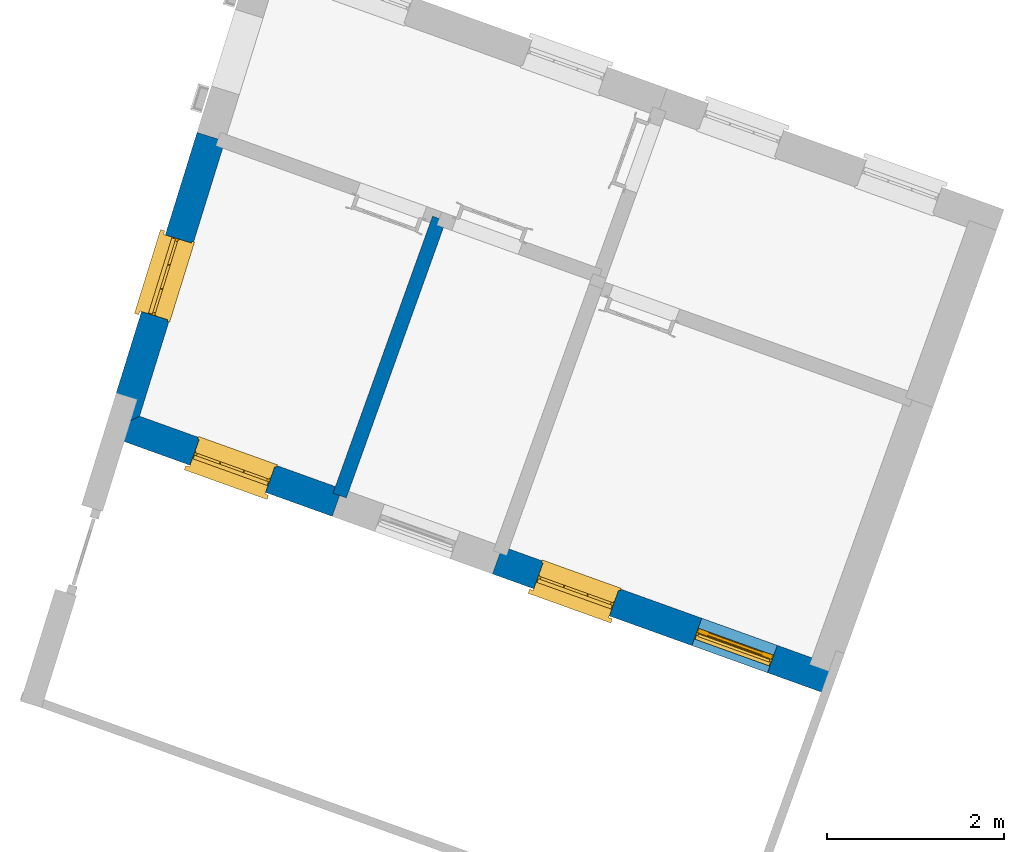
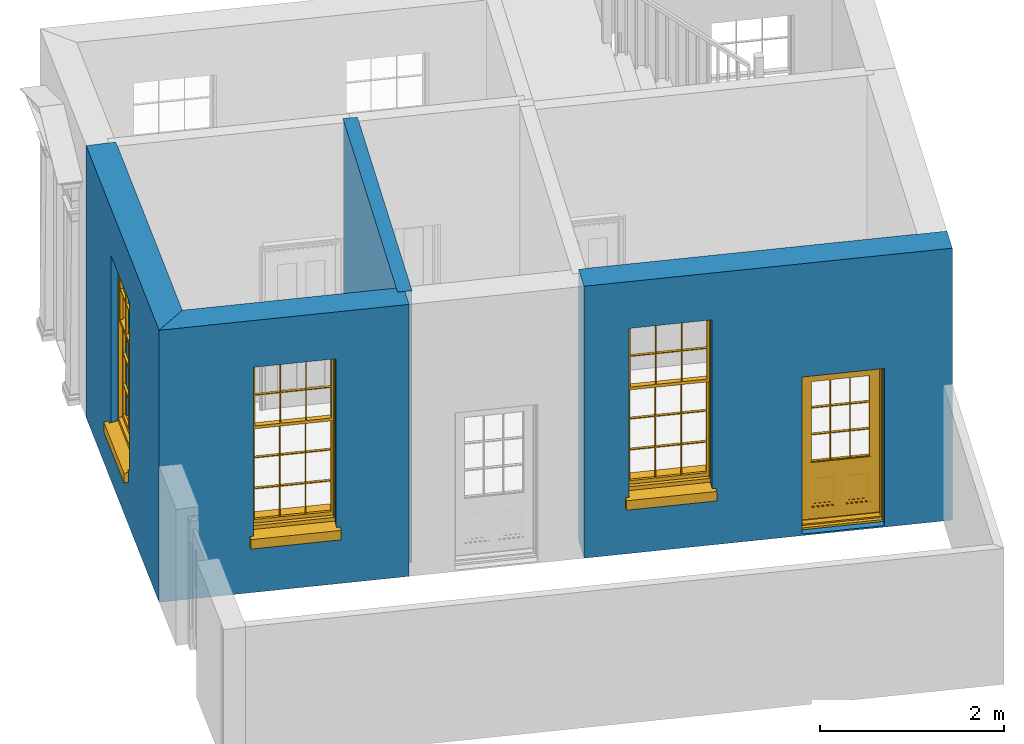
# One storey, part 2 of 6: 4 walls, 3 windows, 1 door, 4 openings.
"""IFC4 building model written with IfcOpenShell, lengths in metres."""

from ifc_helpers import new_model, si_unit, frame, origin, origin_with_axes, place, context, subcontext, project, spatial, polyline, outline, extrude, faceted_brep, source, transform, mapped, material, layer, layer_set, layer_usage, type_object, type_shapes, element, fill, save


model = new_model("IFC4")

# Units and contexts
model_context = context("Model", 3, world=origin_with_axes())
body_context = subcontext(model_context, "Body", "Model", "MODEL_VIEW")
ifc_project = project(units=[si_unit("PLANEANGLEUNIT", "RADIAN"), si_unit("MASSUNIT", "GRAM", prefix="KILO"), si_unit("FORCEUNIT", "NEWTON", prefix="KILO"), si_unit("LENGTHUNIT", "METRE"), si_unit("AREAUNIT", "SQUARE_METRE"), si_unit("VOLUMEUNIT", "CUBIC_METRE")], contexts=[model_context, model_context])

# Sites, building, storey
site_1_placement = place(None, origin_with_axes())
site_1 = spatial("IfcSite", under=ifc_project, at=site_1_placement, Name="Tamar")
site_2_placement = place(site_1_placement, origin_with_axes())
site_2 = spatial("IfcSite", under=site_1, at=site_2_placement, Name="Site plot-21", CompositionType="ELEMENT")
building_placement = place(None, origin_with_axes())
building = spatial("IfcBuilding", under=site_2, at=building_placement, Name="Building plot-21", CompositionType="ELEMENT")
storey_placement = place(None, frame((0.0, 0.0, 26.0), z_axis=(0.0, 0.0, 1.0), x_axis=(1.0, 0.0, 0.0)))
storey = spatial("IfcBuildingStorey", under=building, at=storey_placement, Name="plot-21 0", CompositionType="ELEMENT", Elevation=26.0)

# Wall, opening, window
ifc_material_1 = material(Name="Masonry")
ifc_layer_1 = layer(ifc_material_1, 0.33, ventilated=False)
ifc_layer_set_1 = layer_set([ifc_layer_1], Name="exterior_0.08_0.25")
ifc_layer_usage_1 = layer_usage(ifc_layer_set_1, "AXIS2", "POSITIVE", -0.25)
wall_type_1 = type_object("IfcWallType", Name="exterior_0.08_0.25", PredefinedType="SOLIDWALL", material=ifc_layer_set_1)
wall_1_placement = place(storey_placement, frame((253.821035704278, 285.869868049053, 0.0), z_axis=(0.0, 0.0, 1.0), x_axis=(-0.296355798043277, -0.955077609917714, 0.0)))
wall_1 = element("IfcWall", 1, at=wall_1_placement, inside=storey, type_object=wall_type_1, material=ifc_layer_usage_1, Name="exterior", context=body_context, shape_type="SweptSolid", body=[
    extrude(outline(polyline([(3.21728901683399e-14, 0.0799999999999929), (-7.43696345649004e-14, -0.250000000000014), (3.57885981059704, -0.249999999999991), (3.26309812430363, 0.0800000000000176), (3.21728901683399e-14, 0.0799999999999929)])), origin_with_axes(), (0.0, 0.0, 1.0), 3.6),
])
opening_1_placement = place(wall_1_placement, frame((1.21482320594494, 0.0, 0.75)))
opening_1 = element("IfcOpeningElement", 2, at=opening_1_placement, cuts=wall_1, Name="My Opening", ObjectType="Opening", context=body_context, shape_type="SweptSolid", body=[
    extrude(outline(polyline([(0.0, -0.269999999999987), (0.909999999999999, -0.269999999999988), (0.910000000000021, 1.10000000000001), (2.33146835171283e-14, 1.10000000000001), (0.0, -0.269999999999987)])), origin_with_axes(), (0.0, 0.0, 1.0), 2.23),
])
window_type = type_object("IfcWindowType", Name="sash_big_taller", PartitioningType="DOUBLE_PANEL_HORIZONTAL", PredefinedType="NOTDEFINED")
shared_shape_1 = source(origin(), body_context, "Body", "Brep", [
    faceted_brep([(0.033125, 0.145, 1.385209), (0.01, 0.145, 1.385209), (0.033125, 0.145, 1.786042), (0.876875, 0.145, 1.385209), (0.876875, 0.145, 1.786042), (0.9, 0.145, 1.385209), (0.876875, 0.145, 1.796042), (0.876875, 0.145, 2.196875), (0.9, 0.145, 2.22), (0.033125, 0.145, 2.196875), (0.033125, 0.145, 1.796042), (0.01, 0.145, 2.22), (0.876875, 0.115, 1.786042), (0.876875, 0.115, 1.385209), (0.9, 0.115, 1.347084), (0.033125, 0.115, 2.196875), (0.01, 0.115, 2.22), (0.033125, 0.115, 1.796042), (0.01, 0.115, 1.347084), (0.033125, 0.115, 1.385209), (0.033125, 0.115, 1.786042), (0.876875, 0.115, 2.196875), (0.876875, 0.115, 1.796042), (0.9, 0.115, 2.22), (0.033125, 0.145, 1.347084), (0.01, 0.145, 1.347084), (0.033125, 0.145, 0.94625), (0.876875, 0.145, 1.347084), (0.876875, 0.145, 0.94625), (0.9, 0.145, 1.347084), (0.876875, 0.145, 0.52625), (0.876875, 0.145, 0.125417), (0.9, 0.145, 0.077167), (0.033125, 0.145, 0.125417), (0.033125, 0.145, 0.52625), (0.01, 0.145, 0.077167), (-0.0425, 0.0, 0.01), (-0.0425, -0.05, 0.001667), (0.0, 0.0, 0.01), (0.9525, 0.0, 0.01), (0.91, 0.0, 0.01), (0.9525, -0.05, 0.001667), (-0.02, 0.33, 0.077167), (0.0, 0.33, 0.077167), (-0.02, 0.36, 0.077167), (0.0, 0.19, 0.077167), (0.01, 0.19, 0.077167), (0.91, 0.19, 0.077167), (0.91, 0.33, 0.077167), (0.9, 0.19, 0.077167), (0.93, 0.33, 0.077167), (0.93, 0.36, 0.077167), (0.01, 0.175, 1.385209), (0.9, 0.175, 1.385209), (0.876875, 0.175, 0.125417), (0.876875, 0.175, 0.52625), (0.9, 0.175, 0.077167), (0.876875, 0.175, 0.94625), (0.876875, 0.175, 1.347084), (0.033125, 0.175, 0.125417), (0.01, 0.175, 0.077167), (0.033125, 0.175, 0.52625), (0.033125, 0.175, 1.347084), (0.033125, 0.175, 0.94625), (-0.02, 0.33, 0.052167), (-0.02, 0.36, 0.052167), (0.93, 0.36, 0.052167), (0.93, 0.33, 0.052167), (0.91, 0.33, 0.052167), (0.0, 0.33, 0.052167), (0.91, 0.1, 0.026667), (0.0, 0.1, 0.026667), (-0.0425, -0.05, -0.123333), (0.9525, -0.05, -0.123333), (-0.0425, 0.0, -0.123333), (0.9525, 0.0, -0.123333), (0.01, 0.19, 2.22), (0.9, 0.19, 2.22), (0.0, 0.19, 2.23), (0.91, 0.19, 2.23), (0.01, 0.1, 0.077167), (0.9, 0.1, 0.077167), (0.592292, 0.145, 0.125417), (0.592292, 0.175, 0.125417), (0.317708, 0.175, 0.125417), (0.317708, 0.145, 0.125417), (0.592292, 0.145, 0.53625), (0.317708, 0.145, 0.53625), (0.317708, 0.145, 0.52625), (0.592292, 0.145, 0.52625), (0.592292, 0.175, 0.53625), (0.317708, 0.175, 0.53625), (0.592292, 0.115, 1.796042), (0.592292, 0.145, 1.796042), (0.317708, 0.145, 1.796042), (0.317708, 0.115, 1.796042), (0.317708, 0.115, 1.786042), (0.592292, 0.115, 1.786042), (0.317708, 0.145, 1.786042), (0.592292, 0.145, 1.786042), (0.602292, 0.115, 1.786042), (0.592292, 0.115, 1.385209), (0.602292, 0.115, 1.385209), (0.602292, 0.145, 1.385209), (0.592292, 0.145, 1.385209), (0.602292, 0.145, 1.786042), (0.876875, 0.145, 0.53625), (0.876875, 0.175, 0.53625), (0.602292, 0.175, 0.53625), (0.602292, 0.145, 0.53625), (0.317708, 0.175, 0.52625), (0.307708, 0.175, 0.125417), (0.307708, 0.175, 0.52625), (0.602292, 0.175, 0.52625), (0.602292, 0.175, 0.125417), (0.592292, 0.175, 0.52625), (0.307708, 0.175, 0.53625), (0.033125, 0.175, 0.53625), (0.317708, 0.175, 1.347084), (0.317708, 0.175, 0.94625), (0.307708, 0.175, 0.94625), (0.307708, 0.175, 1.347084), (0.602292, 0.175, 1.347084), (0.602292, 0.175, 0.94625), (0.592292, 0.175, 0.94625), (0.592292, 0.175, 1.347084), (0.307708, 0.145, 0.52625), (0.307708, 0.145, 0.125417), (0.307708, 0.145, 0.53625), (0.033125, 0.145, 0.53625), (0.307708, 0.145, 1.347084), (0.307708, 0.145, 0.94625), (0.592292, 0.145, 1.347084), (0.592292, 0.145, 0.94625), (0.317708, 0.145, 0.94625), (0.317708, 0.145, 1.347084), (0.602292, 0.145, 0.94625), (0.602292, 0.145, 1.347084), (0.602292, 0.145, 0.52625), (0.602292, 0.145, 0.125417), (0.307708, 0.115, 1.796042), (0.307708, 0.115, 1.786042), (0.307708, 0.115, 1.385209), (0.317708, 0.115, 1.385209), (0.317708, 0.115, 2.196875), (0.307708, 0.115, 2.196875), (0.602292, 0.115, 2.196875), (0.592292, 0.115, 2.196875), (0.602292, 0.115, 1.796042), (0.602292, 0.145, 1.796042), (0.307708, 0.145, 1.796042), (0.307708, 0.145, 2.196875), (0.317708, 0.145, 2.196875), (0.592292, 0.145, 2.196875), (0.602292, 0.145, 2.196875), (0.307708, 0.145, 1.786042), (0.317708, 0.145, 1.385209), (0.307708, 0.145, 1.385209), (0.876875, 0.175, 0.93625), (0.033125, 0.175, 0.93625), (0.033125, 0.145, 0.93625), (0.876875, 0.145, 0.93625), (0.91, 0.1, 2.23), (0.9, 0.1, 2.22), (0.01, 0.1, 2.22), (0.0, 0.1, 2.23), (0.91, 0.0, 0.0), (0.0, 0.0, 0.0), (0.91, 0.33, 0.0), (0.0, 0.33, 0.0), (0.317708, 0.145, 0.93625), (0.592292, 0.145, 0.93625), (0.317708, 0.175, 0.93625), (0.307708, 0.175, 0.93625), (0.602292, 0.175, 0.93625), (0.592292, 0.175, 0.93625), (0.307708, 0.145, 0.93625), (0.602292, 0.145, 0.93625)], [[[0, 1, 2]], [[3, 4, 5]], [[6, 7, 8]], [[9, 10, 11]], [[12, 13, 14]], [[15, 16, 17]], [[18, 19, 20]], [[21, 22, 23]], [[24, 25, 26]], [[27, 28, 29]], [[30, 31, 32]], [[33, 34, 35]], [[14, 27, 29]], [[25, 24, 18]], [[36, 37, 38]], [[39, 40, 41]], [[42, 43, 44]], [[45, 46, 43]], [[47, 48, 49]], [[50, 51, 48]], [[1, 0, 52]], [[5, 53, 3]], [[54, 55, 56]], [[57, 58, 53]], [[59, 60, 61]], [[62, 63, 52]], [[48, 43, 46, 49]], [[51, 44, 43, 48]], [[64, 42, 44, 65]], [[65, 44, 51, 66]], [[66, 51, 50, 67]], [[65, 66, 68, 69]], [[60, 56, 49, 46]], [[70, 71, 38, 40]], [[37, 41, 40, 38]], [[37, 72, 73, 41]], [[74, 75, 73, 72]], [[8, 11, 76, 77]], [[76, 78, 79, 77]], [[32, 35, 80, 81]], [[81, 80, 71, 70]], [[82, 83, 84, 85]], [[86, 87, 88, 89]], [[86, 90, 91, 87]], [[92, 93, 94, 95]], [[92, 95, 96, 97]], [[96, 98, 99, 97]], [[100, 97, 101, 102]], [[103, 104, 99, 105]], [[97, 99, 104, 101]], [[102, 103, 105, 100]], [[106, 107, 108, 109]], [[110, 84, 111, 112]], [[113, 114, 83, 115]], [[116, 112, 61, 117]], [[90, 115, 110, 91]], [[118, 119, 120, 121]], [[122, 123, 124, 125]], [[113, 108, 107, 55]], [[126, 112, 111, 127]], [[34, 61, 112, 126]], [[89, 115, 83, 82]], [[88, 110, 115, 89]], [[85, 84, 110, 88]], [[128, 116, 117, 129]], [[130, 121, 120, 131]], [[132, 125, 124, 133]], [[134, 119, 118, 135]], [[136, 123, 122, 137]], [[138, 113, 55, 30]], [[139, 114, 113, 138]], [[138, 30, 106, 109]], [[88, 126, 127, 85]], [[138, 89, 82, 139]], [[137, 132, 133, 136]], [[128, 129, 34, 126]], [[135, 130, 131, 134]], [[140, 17, 20, 141]], [[96, 141, 142, 143]], [[144, 145, 140, 95]], [[146, 147, 92, 148]], [[100, 12, 22, 148]], [[149, 6, 4, 105]], [[94, 150, 151, 152]], [[149, 93, 153, 154]], [[99, 98, 94, 93]], [[155, 2, 10, 150]], [[156, 157, 155, 98]], [[141, 155, 157, 142]], [[20, 2, 155, 141]], [[143, 156, 98, 96]], [[140, 150, 10, 17]], [[145, 151, 150, 140]], [[147, 153, 93, 92]], [[95, 94, 152, 144]], [[22, 6, 149, 148]], [[148, 149, 154, 146]], [[100, 105, 4, 12]], [[109, 86, 89, 138]], [[108, 113, 115, 90]], [[91, 110, 112, 116]], [[87, 128, 126, 88]], [[97, 100, 148, 92]], [[141, 96, 95, 140]], [[98, 155, 150, 94]], [[105, 99, 93, 149]], [[143, 101, 104, 156]], [[135, 118, 125, 132]], [[144, 152, 153, 147]], [[127, 111, 59, 33]], [[15, 9, 151, 145]], [[146, 154, 7, 21]], [[31, 54, 114, 139]], [[36, 74, 72, 37]], [[39, 41, 73, 75]], [[18, 14, 101, 143]], [[23, 16, 144, 147]], [[83, 56, 60, 84]], [[52, 53, 125, 118]], [[53, 52, 156, 104]], [[11, 8, 153, 152]], [[14, 18, 135, 132]], [[2, 1, 11, 10]], [[8, 5, 4, 6]], [[57, 53, 56, 158]], [[60, 52, 63, 159]], [[26, 25, 35, 160]], [[32, 29, 28, 161]], [[14, 23, 22, 12]], [[18, 20, 17, 16]], [[19, 0, 2, 20]], [[17, 10, 9, 15]], [[12, 4, 3, 13]], [[21, 7, 6, 22]], [[27, 58, 57, 28]], [[30, 55, 54, 31]], [[33, 59, 61, 34]], [[26, 63, 62, 24]], [[5, 8, 77, 53]], [[76, 11, 1, 52]], [[46, 45, 78, 76]], [[49, 77, 79, 47]], [[70, 162, 163, 81]], [[71, 80, 164, 165]], [[19, 142, 157, 0]], [[102, 13, 3, 103]], [[121, 130, 24, 62]], [[29, 32, 81, 14]], [[80, 35, 25, 18]], [[60, 46, 76, 52]], [[77, 49, 56, 53]], [[23, 14, 81, 163]], [[16, 164, 80, 18]], [[35, 85, 127]], [[127, 33, 35]], [[139, 82, 32]], [[32, 31, 139]], [[32, 82, 85, 35]], [[102, 101, 14]], [[14, 13, 102]], [[18, 143, 142]], [[142, 19, 18]], [[146, 21, 23]], [[23, 147, 146]], [[16, 15, 145]], [[145, 144, 16]], [[11, 152, 151]], [[151, 9, 11]], [[154, 153, 8]], [[8, 7, 154]], [[23, 163, 164, 16]], [[162, 165, 164, 163]], [[52, 118, 121]], [[121, 62, 52]], [[125, 53, 122]], [[58, 122, 53]], [[27, 137, 122, 58]], [[56, 83, 114]], [[114, 54, 56]], [[111, 84, 60]], [[60, 59, 111]], [[137, 27, 14]], [[14, 132, 137]], [[130, 135, 18]], [[18, 24, 130]], [[157, 156, 52]], [[52, 0, 157]], [[103, 3, 53]], [[53, 104, 103]], [[79, 78, 165, 162]], [[78, 45, 71, 165]], [[162, 70, 47, 79]], [[166, 75, 74, 167]], [[68, 66, 67]], [[48, 68, 67, 50]], [[69, 64, 65]], [[42, 64, 69, 43]], [[69, 68, 168, 169]], [[70, 68, 48, 47]], [[166, 168, 68, 70]], [[43, 69, 71, 45]], [[69, 169, 167, 71]], [[168, 166, 167, 169]], [[38, 167, 74, 36]], [[71, 167, 38]], [[39, 75, 166, 40]], [[40, 166, 70]], [[133, 134, 170, 171]], [[133, 124, 119, 134]], [[28, 57, 123, 136]], [[172, 91, 116, 173]], [[174, 108, 90, 175]], [[120, 173, 159, 63]], [[124, 175, 172, 119]], [[174, 123, 57, 158]], [[176, 173, 116, 128]], [[160, 159, 173, 176]], [[171, 175, 90, 86]], [[170, 172, 175, 171]], [[87, 91, 172, 170]], [[131, 120, 63, 26]], [[177, 174, 158, 161]], [[109, 108, 174, 177]], [[177, 161, 28, 136]], [[170, 176, 128, 87]], [[177, 171, 86, 109]], [[131, 26, 160, 176]], [[136, 133, 171, 177]], [[123, 174, 175, 124]], [[119, 172, 173, 120]], [[134, 131, 176, 170]], [[129, 117, 159, 160]], [[161, 158, 107, 106]], [[35, 34, 129]], [[35, 129, 160]], [[32, 106, 30]], [[32, 161, 106]], [[56, 55, 107]], [[56, 107, 158]], [[60, 117, 61]], [[60, 159, 117]]]),
])
type_shapes(window_type, [shared_shape_1])
window_1_placement = place(storey_placement, frame((253.203144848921, 284.789633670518, 0.75), z_axis=(0.0, 0.0, 1.0), x_axis=(-0.269683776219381, -0.869120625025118, 0.0)))
window_1 = element("IfcWindow", 3, at=window_1_placement, inside=storey, type_object=window_type, Name="toilet street window", OverallHeight=2.23, OverallWidth=0.91, context=body_context, shape_type="MappedRepresentation", body=[
    mapped(shared_shape_1, transform((0.0, 0.0, 0.0), scale=1.0)),
])
fill(opening_1, window_1)

wall_2_placement = place(storey_placement, frame((252.8313121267, 282.680246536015, 0.0), z_axis=(0.0, 0.0, 1.0), x_axis=(0.941087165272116, -0.338164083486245, 0.0)))
wall_2 = element("IfcWall", 4, at=wall_2_placement, inside=storey, type_object=wall_type_1, material=ifc_layer_usage_1, Name="exterior", context=body_context, shape_type="SweptSolid", body=[
    extrude(outline(polyline([(0.0765482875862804, 0.0799999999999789), (-0.239213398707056, -0.250000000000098), (2.51465547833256, -0.250000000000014), (2.51465547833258, 0.079999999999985), (0.0765482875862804, 0.0799999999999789)])), origin_with_axes(), (0.0, 0.0, 1.0), 3.6),
])
opening_2_placement = place(wall_2_placement, frame((0.80232773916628, 0.0, 0.75)))
opening_2 = element("IfcOpeningElement", 5, at=opening_2_placement, cuts=wall_2, Name="My Opening", ObjectType="Opening", context=body_context, shape_type="SweptSolid", body=[
    extrude(outline(polyline([(0.0, -0.270000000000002), (0.909999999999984, -0.26999999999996), (0.91, 1.10000000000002), (1.62092561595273e-14, 1.09999999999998), (0.0, -0.270000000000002)])), origin_with_axes(), (0.0, 0.0, 1.0), 2.23),
])
window_2_placement = place(storey_placement, frame((253.49506816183, 282.154834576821, 0.75), z_axis=(0.0, 0.0, 1.0), x_axis=(0.856389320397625, -0.307729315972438, 0.0)))
window_2 = element("IfcWindow", 6, at=window_2_placement, inside=storey, type_object=window_type, Name="toilet outside window", OverallHeight=2.23, OverallWidth=0.91, context=body_context, shape_type="MappedRepresentation", body=[
    mapped(shared_shape_1, transform((0.0, 0.0, 0.0), scale=1.0)),
])
fill(opening_2, window_2)

# Wall, openings, window, door
wall_3_placement = place(storey_placement, frame((257.014123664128, 281.177222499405, 0.0), z_axis=(0.0, 0.0, 1.0), x_axis=(0.94108716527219, -0.33816408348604, 0.0)))
wall_3 = element("IfcWall", 7, at=wall_3_placement, inside=storey, type_object=wall_type_1, material=ifc_layer_usage_1, Name="exterior", context=body_context, shape_type="SweptSolid", body=[
    extrude(outline(polyline([(-1.44724096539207e-14, 0.0800000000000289), (7.61153752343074e-14, -0.249999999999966), (4.05822589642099, -0.249999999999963), (4.05822589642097, 0.0799999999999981), (-1.44724096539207e-14, 0.0800000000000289)])), origin_with_axes(), (0.0, 0.0, 1.0), 3.6),
])
opening_3_placement = place(wall_3_placement, frame((0.497056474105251, 0.0, 0.75)))
opening_3 = element("IfcOpeningElement", 8, at=opening_3_placement, cuts=wall_3, Name="My Opening", ObjectType="Opening", context=body_context, shape_type="SweptSolid", body=[
    extrude(outline(polyline([(0.0, -0.270000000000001), (0.909999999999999, -0.27000000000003), (0.910000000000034, 1.09999999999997), (3.55826479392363e-14, 1.1), (0.0, -0.270000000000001)])), origin_with_axes(), (0.0, 0.0, 1.0), 2.23),
])
opening_4_placement = place(wall_3_placement, frame((2.40116942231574, 0.0, 0.0199999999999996)))
opening_4 = element("IfcOpeningElement", 9, at=opening_4_placement, cuts=wall_3, Name="My Opening", ObjectType="Opening", context=body_context, shape_type="SweptSolid", body=[
    extrude(outline(polyline([(0.0, -0.270000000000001), (0.909999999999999, -0.27000000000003), (0.910000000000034, 1.09999999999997), (3.59712259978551e-14, 1.1), (0.0, -0.270000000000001)])), origin_with_axes(), (0.0, 0.0, 1.0), 2.08),
])
window_3_placement = place(storey_placement, frame((257.390592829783, 280.755042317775, 0.75), z_axis=(0.0, 0.0, 1.0), x_axis=(0.856389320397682, -0.307729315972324, 0.0)))
window_3 = element("IfcWindow", 10, at=window_3_placement, inside=storey, type_object=window_type, Name="bedroom outside window", OverallHeight=2.23, OverallWidth=0.91, context=body_context, shape_type="MappedRepresentation", body=[
    mapped(shared_shape_1, transform((0.0, 0.0, 0.0), scale=1.0)),
])
fill(opening_3, window_3)
door_type = type_object("IfcDoorType", Name="door_panelled", OperationType="SINGLE_SWING_LEFT", PredefinedType="NOTDEFINED")
shared_shape_2 = source(origin(), body_context, "Body", "Brep", [
    faceted_brep([(0.545, 0.195, 0.265), (0.745, 0.195, 0.265), (0.745, 0.2, 0.265), (0.545, 0.2, 0.265), (0.745, 0.2, 0.58), (0.545, 0.2, 0.58), (0.545, 0.195, 0.58), (0.515, 0.19, 0.235), (0.775, 0.19, 0.235), (0.745, 0.195, 0.58), (0.515, 0.19, 0.61), (0.515, 0.185, 0.235), (0.775, 0.185, 0.235), (0.775, 0.19, 0.61), (0.515, 0.185, 0.61), (0.785, 0.185, 0.225), (0.505, 0.185, 0.225), (0.775, 0.185, 0.61), (0.505, 0.185, 0.62), (0.785, 0.185, 0.62), (0.505, 0.18, 0.225), (0.785, 0.18, 0.225), (0.505, 0.18, 0.62), (0.785, 0.18, 0.62), (0.883, 0.18, 0.075), (0.898, 0.18, 0.075), (0.405, 0.18, 0.62), (0.405, 0.18, 0.225), (0.027, 0.18, 0.075), (0.785, 0.18, 0.82), (0.125, 0.18, 0.82), (0.405, 0.185, 0.62), (0.405, 0.185, 0.225), (0.898, 0.18, 2.068), (0.027, 0.17, 0.075), (0.883, 0.17, 0.075), (0.125, 0.18, 0.225), (0.012, 0.18, 0.075), (0.785, 0.19, 0.82), (0.125, 0.19, 0.82), (0.125, 0.18, 0.62), (0.125, 0.185, 0.62), (0.395, 0.185, 0.61), (0.395, 0.185, 0.235), (0.125, 0.185, 0.225), (0.785, 0.18, 1.895), (0.027, 0.14, 0.045), (0.883, 0.14, 0.045), (0.558333, 0.19, 0.83), (0.351667, 0.19, 0.83), (0.125, 0.18, 1.895), (0.125, 0.19, 1.895), (0.785, 0.19, 1.895), (0.012, 0.18, 2.068), (0.135, 0.185, 0.61), (0.395, 0.19, 0.61), (0.395, 0.19, 0.235), (0.135, 0.185, 0.235), (0.027, 0.14, 0.027), (0.883, 0.14, 0.027), (0.568333, 0.19, 0.83), (0.558333, 0.22, 0.83), (0.351667, 0.22, 0.83), (0.341667, 0.19, 0.83), (0.135, 0.19, 1.185), (0.135, 0.19, 1.53), (0.775, 0.19, 1.53), (0.775, 0.19, 1.185), (0.135, 0.19, 0.61), (0.365, 0.195, 0.58), (0.365, 0.195, 0.265), (0.135, 0.19, 0.235), (0.568333, 0.19, 1.175), (0.558333, 0.19, 1.175), (0.775, 0.19, 0.83), (0.558333, 0.22, 1.175), (0.785, 0.22, 0.82), (0.125, 0.22, 0.82), (0.351667, 0.22, 1.175), (0.351667, 0.19, 1.175), (0.341667, 0.19, 1.175), (0.135, 0.19, 0.83), (0.135, 0.19, 1.175), (0.135, 0.22, 1.185), (0.135, 0.22, 1.53), (0.135, 0.19, 1.54), (0.351667, 0.19, 1.885), (0.558333, 0.19, 1.885), (0.775, 0.22, 1.53), (0.775, 0.22, 1.185), (0.775, 0.19, 1.175), (0.775, 0.19, 1.54), (0.165, 0.195, 0.58), (0.365, 0.2, 0.58), (0.365, 0.2, 0.265), (0.165, 0.195, 0.265), (0.568333, 0.22, 0.83), (0.568333, 0.22, 1.175), (0.568333, 0.19, 1.185), (0.558333, 0.19, 1.185), (0.775, 0.22, 0.83), (0.785, 0.23, 0.82), (0.125, 0.23, 0.82), (0.341667, 0.22, 0.83), (0.341667, 0.22, 1.175), (0.351667, 0.19, 1.185), (0.341667, 0.19, 1.185), (0.135, 0.22, 0.83), (0.341667, 0.22, 1.185), (0.125, 0.22, 1.895), (0.341667, 0.22, 1.53), (0.341667, 0.19, 1.53), (0.135, 0.19, 1.885), (0.341667, 0.19, 1.54), (0.341667, 0.19, 1.885), (0.558333, 0.22, 1.885), (0.351667, 0.22, 1.885), (0.568333, 0.19, 1.885), (0.785, 0.22, 1.895), (0.568333, 0.22, 1.185), (0.568333, 0.19, 1.53), (0.568333, 0.22, 1.53), (0.568333, 0.19, 1.54), (0.775, 0.19, 1.885), (0.165, 0.2, 0.58), (0.165, 0.2, 0.265), (0.775, 0.22, 1.175), (0.558333, 0.19, 1.53), (0.351667, 0.22, 1.185), (0.558333, 0.22, 1.185), (0.505, 0.23, 0.62), (0.405, 0.23, 0.62), (0.125, 0.23, 1.895), (0.785, 0.23, 1.895), (0.351667, 0.19, 1.53), (0.135, 0.22, 1.175), (0.135, 0.22, 1.54), (0.341667, 0.22, 1.54), (0.135, 0.22, 1.885), (0.351667, 0.19, 1.54), (0.558333, 0.22, 1.54), (0.558333, 0.19, 1.54), (0.351667, 0.22, 1.54), (0.775, 0.22, 1.54), (0.568333, 0.22, 1.54), (0.775, 0.22, 1.885), (0.558333, 0.22, 1.53), (0.405, 0.23, 0.225), (0.505, 0.23, 0.225), (0.125, 0.23, 0.62), (0.785, 0.23, 0.62), (0.012, 0.23, 2.068), (0.898, 0.23, 2.068), (0.351667, 0.22, 1.53), (0.341667, 0.22, 1.885), (0.568333, 0.22, 1.885), (0.405, 0.225, 0.225), (0.405, 0.225, 0.62), (0.505, 0.225, 0.62), (0.505, 0.225, 0.225), (0.898, 0.23, 0.027), (0.012, 0.23, 0.027), (0.125, 0.225, 0.62), (0.785, 0.225, 0.62), (0.395, 0.225, 0.235), (0.395, 0.225, 0.61), (0.125, 0.23, 0.225), (0.125, 0.225, 0.225), (0.515, 0.225, 0.61), (0.515, 0.225, 0.235), (0.785, 0.23, 0.225), (0.785, 0.225, 0.225), (0.135, 0.225, 0.61), (0.775, 0.225, 0.61), (0.135, 0.225, 0.235), (0.395, 0.22, 0.235), (0.395, 0.22, 0.61), (0.515, 0.22, 0.61), (0.515, 0.22, 0.235), (0.775, 0.225, 0.235), (0.135, 0.22, 0.61), (0.775, 0.22, 0.61), (0.135, 0.22, 0.235), (0.365, 0.215, 0.265), (0.365, 0.215, 0.58), (0.545, 0.215, 0.58), (0.545, 0.215, 0.265), (0.775, 0.22, 0.235), (0.165, 0.215, 0.58), (0.745, 0.215, 0.58), (0.165, 0.215, 0.265), (0.365, 0.21, 0.58), (0.365, 0.21, 0.265), (0.545, 0.21, 0.58), (0.545, 0.21, 0.265), (0.745, 0.215, 0.265), (0.165, 0.21, 0.58), (0.745, 0.21, 0.58), (0.165, 0.21, 0.265), (0.745, 0.21, 0.265), (0.885, 0.178, 0.025), (0.025, 0.178, 0.025), (0.025, 0.15, 0.025), (0.885, 0.15, 0.025), (0.9, 0.23, 0.025), (0.01, 0.23, 0.025), (0.9, 0.178, 0.025), (0.91, 0.23, 0.0), (0.0, 0.23, 0.0), (0.01, 0.178, 0.025), (0.9, 0.178, 2.07), (0.9, 0.23, 2.07), (0.885, 0.178, 2.055), (0.91, 0.23, 2.08), (0.01, 0.23, 2.07), (0.0, 0.23, 2.08), (0.01, 0.178, 2.07), (0.025, 0.178, 2.055), (0.0, 0.1, 2.08), (0.91, 0.1, 2.08), (0.01, 0.1, 2.07), (0.9, 0.1, 2.07), (0.01, 0.15, 2.07), (0.9, 0.15, 2.07), (0.0, 0.1, 0.0), (0.91, 0.1, 0.0), (0.01, 0.1, 0.025), (0.9, 0.1, 0.025), (0.01, 0.15, 0.025), (0.025, 0.15, 2.055), (0.9, 0.15, 0.025), (0.885, 0.15, 2.055), (0.898, 0.18, 0.027), (0.012, 0.18, 0.027), (0.883, 0.18, 0.027), (0.027, 0.18, 0.027)], [[[0, 1, 2, 3]], [[2, 4, 5, 3]], [[0, 3, 5, 6]], [[1, 0, 7, 8]], [[9, 4, 2, 1]], [[9, 6, 5, 4]], [[0, 6, 10, 7]], [[8, 7, 11, 12]], [[8, 13, 9, 1]], [[13, 10, 6, 9]], [[7, 10, 14, 11]], [[15, 12, 11, 16]], [[12, 17, 13, 8]], [[17, 14, 10, 13]], [[18, 16, 11, 14]], [[15, 19, 17, 12]], [[15, 16, 20, 21]], [[14, 17, 19, 18]], [[16, 18, 22, 20]], [[21, 23, 19, 15]], [[24, 25, 21, 20]], [[23, 22, 18, 19]], [[20, 22, 26, 27]], [[23, 21, 25]], [[28, 24, 20, 27]], [[22, 23, 29]], [[29, 30, 26, 22]], [[27, 26, 31, 32]], [[23, 25, 33, 29]], [[34, 35, 24, 28]], [[28, 27, 36, 37]], [[38, 39, 30, 29]], [[26, 30, 40]], [[26, 40, 41, 31]], [[42, 43, 32, 31]], [[32, 44, 36, 27]], [[33, 45, 29]], [[46, 47, 35, 34]], [[36, 40, 37]], [[39, 38, 48, 49]], [[50, 30, 39, 51]], [[29, 45, 52, 38]], [[53, 37, 40, 30]], [[44, 41, 40, 36]], [[31, 41, 54, 42]], [[43, 42, 55, 56]], [[57, 44, 32, 43]], [[50, 45, 33, 53]], [[47, 46, 58, 59]], [[60, 48, 38]], [[49, 48, 61, 62]], [[49, 63, 39]], [[50, 53, 30]], [[51, 39, 64, 65]], [[45, 50, 51, 52]], [[66, 67, 38, 52]], [[57, 54, 41, 44]], [[42, 54, 68, 55]], [[56, 55, 69, 70]], [[56, 71, 57, 43]], [[60, 72, 73, 48]], [[60, 38, 74]], [[48, 73, 75, 61]], [[76, 77, 62, 61]], [[62, 78, 79, 49]], [[49, 79, 80, 63]], [[63, 81, 39]], [[82, 64, 39]], [[65, 64, 83, 84]], [[85, 51, 65]], [[52, 51, 86, 87]], [[88, 89, 67, 66]], [[90, 38, 67]], [[91, 66, 52]], [[71, 68, 54, 57]], [[55, 68, 92, 69]], [[69, 93, 94, 70]], [[70, 95, 71, 56]], [[96, 97, 72, 60]], [[73, 72, 98, 99]], [[74, 38, 90]], [[100, 96, 60, 74]], [[75, 73, 79, 78]], [[61, 75, 97, 96]], [[101, 102, 77, 76]], [[77, 103, 62]], [[96, 76, 61]], [[103, 104, 78, 62]], [[80, 79, 105, 106]], [[63, 80, 104, 103]], [[81, 63, 103, 107]], [[81, 82, 39]], [[106, 64, 82, 80]], [[106, 108, 83, 64]], [[84, 83, 77, 109]], [[110, 111, 65, 84]], [[112, 51, 85]], [[113, 85, 65, 111]], [[114, 86, 51]], [[115, 87, 86, 116]], [[117, 52, 87]], [[118, 76, 89, 88]], [[119, 98, 67, 89]], [[120, 121, 88, 66]], [[67, 98, 72, 90]], [[91, 122, 120, 66]], [[91, 52, 123]], [[95, 92, 68, 71]], [[69, 92, 124, 93]], [[94, 93, 124, 125]], [[94, 125, 95, 70]], [[72, 97, 126, 90]], [[127, 99, 98, 120]], [[99, 105, 79, 73]], [[74, 90, 126, 100]], [[96, 100, 76]], [[128, 129, 75, 78]], [[97, 75, 129, 119]], [[130, 131, 102, 101]], [[109, 77, 102, 132]], [[133, 101, 76, 118]], [[77, 107, 103]], [[78, 104, 108, 128]], [[111, 106, 105, 134]], [[104, 80, 82, 135]], [[107, 135, 82, 81]], [[110, 108, 106, 111]], [[104, 135, 83, 108]], [[83, 135, 77]], [[136, 84, 109]], [[110, 84, 136, 137]], [[114, 51, 112]], [[85, 136, 138, 112]], [[113, 137, 136, 85]], [[111, 134, 139, 113]], [[86, 114, 113, 139]], [[140, 141, 87, 115]], [[139, 142, 116, 86]], [[109, 118, 115, 116]], [[117, 123, 52]], [[117, 87, 141, 122]], [[126, 89, 76]], [[143, 118, 88]], [[120, 98, 119, 121]], [[119, 89, 126, 97]], [[144, 143, 88, 121]], [[144, 122, 91, 143]], [[127, 120, 122, 141]], [[143, 91, 123, 145]], [[124, 92, 95, 125]], [[146, 129, 99, 127]], [[99, 129, 128, 105]], [[100, 126, 76]], [[121, 119, 129, 146]], [[147, 131, 130, 148]], [[131, 149, 102]], [[130, 101, 150]], [[102, 151, 132]], [[118, 109, 132, 133]], [[101, 133, 152]], [[107, 77, 135]], [[153, 128, 108, 110]], [[134, 105, 128, 153]], [[109, 138, 136]], [[153, 110, 137, 142]], [[154, 114, 112, 138]], [[137, 113, 114, 154]], [[141, 139, 134, 127]], [[141, 140, 142, 139]], [[144, 140, 115, 155]], [[142, 137, 154, 116]], [[155, 115, 118]], [[116, 154, 109]], [[117, 155, 145, 123]], [[122, 144, 155, 117]], [[143, 145, 118]], [[121, 146, 140, 144]], [[146, 127, 134, 153]], [[156, 157, 131, 147]], [[148, 130, 158, 159]], [[148, 160, 161, 147]], [[157, 162, 149, 131]], [[161, 151, 102, 149]], [[101, 152, 160, 150]], [[163, 158, 130, 150]], [[151, 152, 133, 132]], [[154, 138, 109]], [[142, 140, 146, 153]], [[145, 155, 118]], [[157, 156, 164, 165]], [[147, 166, 167, 156]], [[168, 169, 159, 158]], [[170, 148, 159, 171]], [[148, 170, 160]], [[166, 147, 161]], [[172, 162, 157, 165]], [[166, 149, 162, 167]], [[166, 161, 149]], [[150, 160, 170]], [[163, 173, 168, 158]], [[171, 163, 150, 170]], [[174, 164, 156, 167]], [[175, 176, 165, 164]], [[169, 168, 177, 178]], [[171, 159, 169, 179]], [[167, 162, 172, 174]], [[176, 180, 172, 165]], [[179, 173, 163, 171]], [[181, 177, 168, 173]], [[164, 174, 182, 175]], [[183, 184, 176, 175]], [[178, 177, 185, 186]], [[179, 169, 178, 187]], [[174, 172, 180, 182]], [[184, 188, 180, 176]], [[187, 181, 173, 179]], [[189, 185, 177, 181]], [[175, 182, 190, 183]], [[191, 184, 183, 192]], [[185, 193, 194, 186]], [[187, 178, 186, 195]], [[182, 180, 188, 190]], [[191, 196, 188, 184]], [[195, 189, 181, 187]], [[197, 193, 185, 189]], [[183, 190, 198, 192]], [[198, 196, 191, 192]], [[194, 193, 197, 199]], [[195, 186, 194, 199]], [[188, 196, 198, 190]], [[197, 189, 195, 199]], [[200, 201, 202, 203]], [[201, 200, 204, 205]], [[206, 204, 200]], [[204, 207, 208, 205]], [[209, 201, 205]], [[210, 211, 204, 206]], [[206, 200, 212, 210]], [[211, 213, 207, 204]], [[214, 205, 208, 215]], [[216, 217, 201, 209]], [[205, 214, 216, 209]], [[216, 214, 211, 210]], [[210, 212, 217, 216]], [[214, 215, 213, 211]], [[218, 219, 213, 215]], [[219, 218, 220, 221]], [[221, 220, 222, 223]], [[215, 208, 224, 218]], [[225, 224, 208, 207]], [[224, 226, 220, 218]], [[224, 225, 227, 226]], [[219, 225, 207, 213]], [[228, 222, 220, 226]], [[219, 221, 227, 225]], [[226, 227, 203, 202]], [[202, 229, 222, 228]], [[228, 226, 202]], [[227, 221, 223, 230]], [[230, 203, 227]], [[217, 229, 202, 201]], [[231, 223, 222, 229]], [[230, 223, 231, 203]], [[231, 229, 217, 212]], [[212, 200, 203, 231]], [[33, 152, 151, 53]], [[25, 160, 152, 33]], [[161, 37, 53, 151]], [[232, 160, 25]], [[161, 233, 37]], [[160, 232, 234]], [[24, 234, 232, 25]], [[233, 161, 235]], [[37, 233, 235, 28]], [[161, 160, 234, 235]], [[35, 47, 234, 24]], [[28, 235, 46, 34]], [[58, 235, 234, 59]], [[59, 234, 47]], [[58, 46, 235]]]),
])
type_shapes(door_type, [shared_shape_2])
door_placement = place(storey_placement, frame((259.182529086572, 280.111139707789, 0.0199999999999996), z_axis=(0.0, 0.0, 1.0), x_axis=(0.856389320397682, -0.307729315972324, 0.0)))
door = element("IfcDoor", 11, at=door_placement, inside=storey, type_object=door_type, Name="bedroom outside door", OverallHeight=2.08, OverallWidth=0.91, context=body_context, shape_type="MappedRepresentation", body=[
    mapped(shared_shape_2, transform((0.0, 0.0, 0.0), scale=1.0)),
])
fill(opening_4, door)

# Wall
ifc_material_2 = material(Name="Masonry")
ifc_layer_2 = layer(ifc_material_2, 0.16, ventilated=False)
ifc_layer_set_2 = layer_set([ifc_layer_2], Name="interior_0.08_0.08")
ifc_layer_usage_2 = layer_usage(ifc_layer_set_2, "AXIS2", "POSITIVE", -0.08)
wall_type_2 = type_object("IfcWallType", Name="interior_0.08_0.08", PredefinedType="SOLIDWALL", material=ifc_layer_set_2)
wall_4_placement = place(storey_placement, frame((256.326073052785, 284.969724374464, 0.0), z_axis=(0.0, 0.0, 1.0), x_axis=(-0.338164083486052, -0.941087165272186, 0.0)))
element("IfcWall", 12, at=wall_4_placement, inside=storey, type_object=wall_type_2, material=ifc_layer_usage_2, Name="interior", context=body_context, shape_type="SweptSolid", body=[
    extrude(outline(polyline([(3.68012646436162e-15, 0.0799999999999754), (-3.72545077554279e-15, -0.0799999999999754), (3.33640083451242, -0.0800000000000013), (3.33640083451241, 0.080000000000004), (3.68012646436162e-15, 0.0799999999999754)])), origin_with_axes(), (0.0, 0.0, 1.0), 3.6),
])

save(model, "model.ifc")
